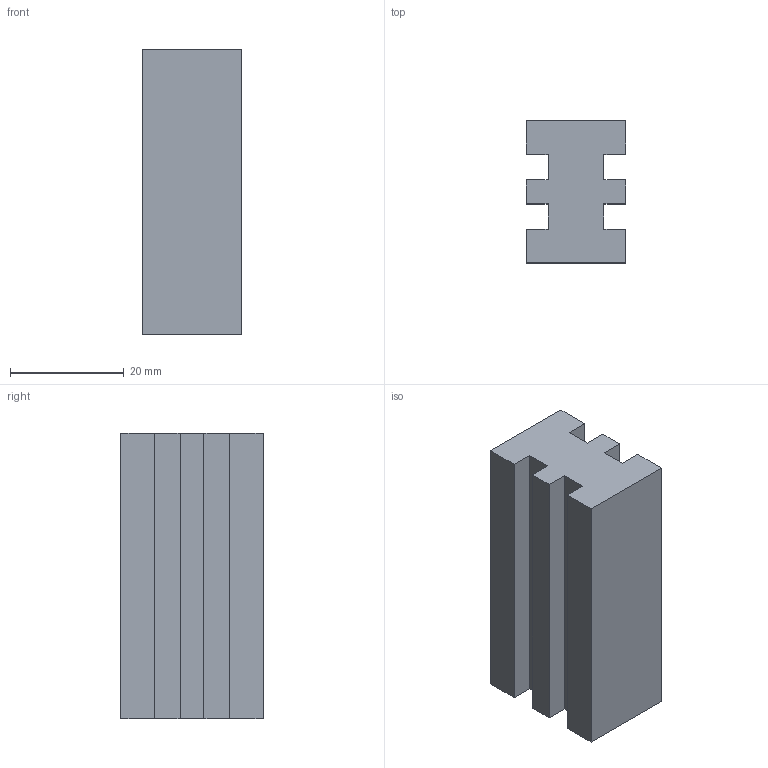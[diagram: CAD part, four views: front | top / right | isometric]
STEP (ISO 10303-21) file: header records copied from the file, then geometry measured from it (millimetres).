
FILE_DESCRIPTION (( 'STEP AP214' ), '1' );
FILE_NAME ('6.04.sppgd.STEP', '2015-06-06T01:13:36', ( '' ), ( '' ), 'SwSTEP 2.0', 'SolidWorks 2015', '' );
FILE_SCHEMA (( 'AUTOMOTIVE_DESIGN' ));
Length unit declared in the file: millimetre
Products named in the file (1): 6.04.sppgd
Bounding box: 17.5 x 25 x 50.2 mm (x, y, z)
Volume: 18483.6 mm3; surface area: 6549.6 mm2
Topology: 1 solids, 1 shells, 22 faces, 60 edges, 40 vertices
Faces by surface type: plane 22
Entity records: 718 total; most frequent: CARTESIAN_POINT 123, ORIENTED_EDGE 120, DIRECTION 106, LINE 60, EDGE_CURVE 60, VECTOR 60, VERTEX_POINT 40, AXIS2_PLACEMENT_3D 23
